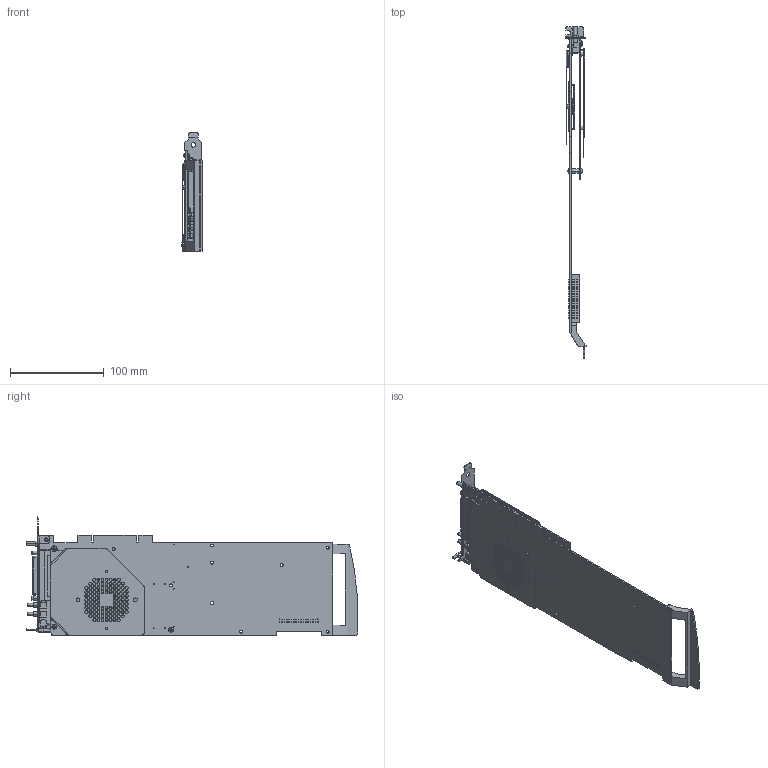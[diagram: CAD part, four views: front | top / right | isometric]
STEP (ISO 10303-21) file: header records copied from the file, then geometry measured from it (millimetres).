
FILE_DESCRIPTION((''),'2;1');
FILE_NAME('CU_PCI-656X','2010-01-14T',('jjorden'),(''),'PRO/ENGINEER BY PARAMETRIC TECHNOLOGY CORPORATION, 2006080','PRO/ENGINEER BY PARAMETRIC TECHNOLOGY CORPORATION, 2006080','');
FILE_SCHEMA(('CONFIG_CONTROL_DESIGN'));
Products named in the file (1): CU_PCI-656X
Bounding box: 22.07 x 353.03 x 126.37 mm (x, y, z)
Volume: 100425.6 mm3; surface area: 142441.2 mm2
Topology: 2 solids, 2 shells, 2018 faces, 5408 edges, 3460 vertices
Faces by surface type: plane 1205, cylinder 698, bspline 47, cone 36, sphere 24, torus 8
Entity records: 68778 total; most frequent: CARTESIAN_POINT 16467, DIRECTION 10782, ORIENTED_EDGE 10768, EDGE_CURVE 5384, VECTOR 3630, LINE 3630, AXIS2_PLACEMENT_3D 3576, VERTEX_POINT 3555
